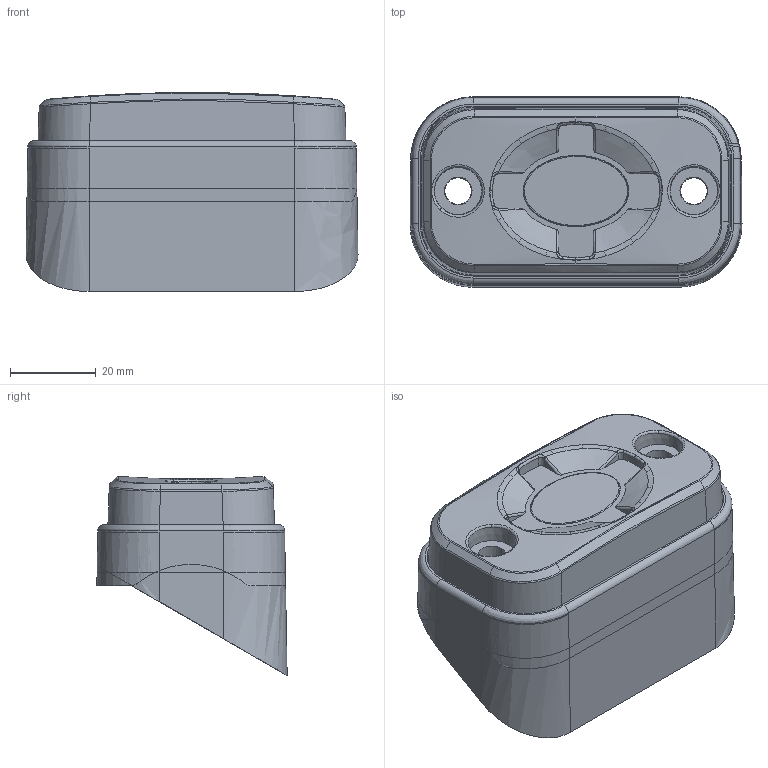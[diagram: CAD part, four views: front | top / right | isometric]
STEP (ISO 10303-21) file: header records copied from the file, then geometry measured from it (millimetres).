
FILE_DESCRIPTION (( 'STEP AP203' ), '1' );
FILE_NAME ('4215.STEP', '2019-02-16T01:00:31', ( 'yf01' ), ( 'Microsoft' ), 'SwSTEP 2.0', 'SolidWorks 2012', '' );
FILE_SCHEMA (( 'CONFIG_CONTROL_DESIGN' ));
Products named in the file (8): 4215; cross recessed ctsk head screws type b gb_GB_CROSS_SCREWS_TYPE136 M3X8-N; 4215PCB1.0; 2.23.305.0209-4215-30¡ã½ºµæ2.0; 2.23.305.0207-4215埴菁蝶菜2.0; 2.23.305.0208-4215平底胶垫2.0; 2.23.301.0135-4215醱欶1.0; 2.22.201.0421-4215綴褲1.0
Assembly tree (7 placements, depth 2):
  4215
    2.22.201.0421-4215綴褲1.0
    2.23.301.0135-4215醱欶1.0
    2.23.305.0208-4215平底胶垫2.0
    2.23.305.0207-4215埴菁蝶菜2.0
    2.23.305.0209-4215-30¡ã½ºµæ2.0
    4215PCB1.0
    cross recessed ctsk head screws type b gb_GB_CROSS_SCREWS_TYPE136 M3X8-N
Bounding box: 77.47 x 44.4 x 46.41 mm (x, y, z)
Volume: 93309.5 mm3; surface area: 65886.7 mm2
Topology: 7 solids, 7 shells, 833 faces, 2189 edges, 1406 vertices
Faces by surface type: plane 345, bspline 242, cylinder 183, cone 48, sphere 9, torus 6
Entity records: 52912 total; most frequent: CARTESIAN_POINT 33667, ORIENTED_EDGE 4354, DIRECTION 3034, EDGE_CURVE 2177, VERTEX_POINT 1400, AXIS2_PLACEMENT_3D 1017, VECTOR 1000, LINE 1000
